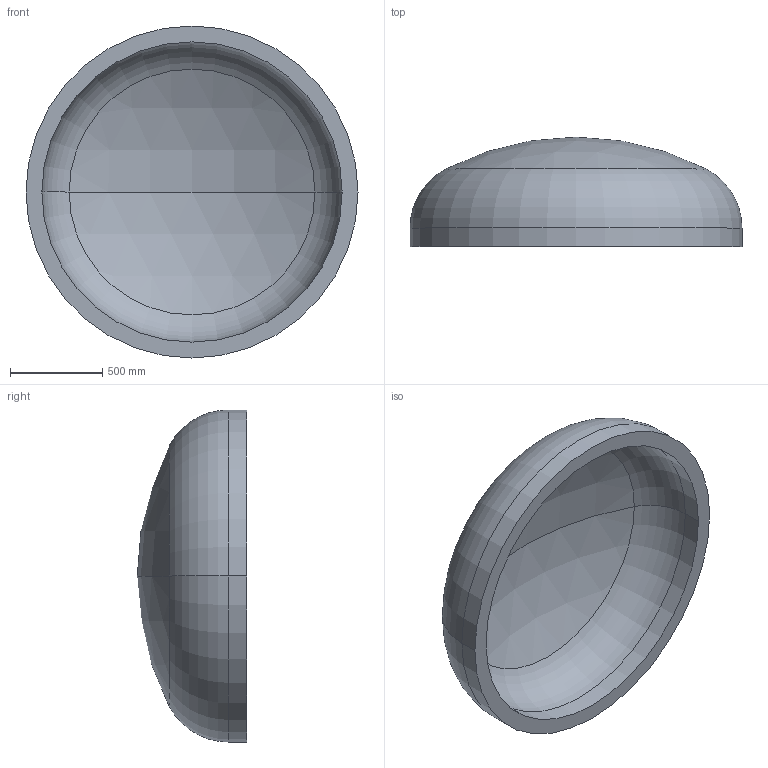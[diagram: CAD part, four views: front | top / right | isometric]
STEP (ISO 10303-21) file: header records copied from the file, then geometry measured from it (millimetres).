
FILE_DESCRIPTION (( 'STEP AP203' ), '1' );
FILE_NAME ('DIN 28013 Korbbogenform_-_Boden DIN 28013 - 1800 x 100 - I - s=86.step', '2016-07-01T12:42:11', ( '' ), ( '' ), 'SwSTEP 2.0', 'SolidWorks 2013', '' );
FILE_SCHEMA (( 'CONFIG_CONTROL_DESIGN' ));
Length unit declared in the file: millimetre
Products named in the file (1): DIN 28013 Korbbogenform_-_Boden DIN 28013 - 1800 x 100 - I - s=86
Bounding box: 1800 x 593.19 x 1800 mm (x, y, z)
Volume: 330859805.7 mm3; surface area: 8172985.5 mm2
Topology: 1 solids, 1 shells, 13 faces, 24 edges, 14 vertices
Faces by surface type: torus 4, cylinder 4, sphere 4, plane 1
Entity records: 407 total; most frequent: DIRECTION 72, CARTESIAN_POINT 52, ORIENTED_EDGE 48, AXIS2_PLACEMENT_3D 34, EDGE_CURVE 24, CIRCLE 20, VERTEX_POINT 14, EDGE_LOOP 14
